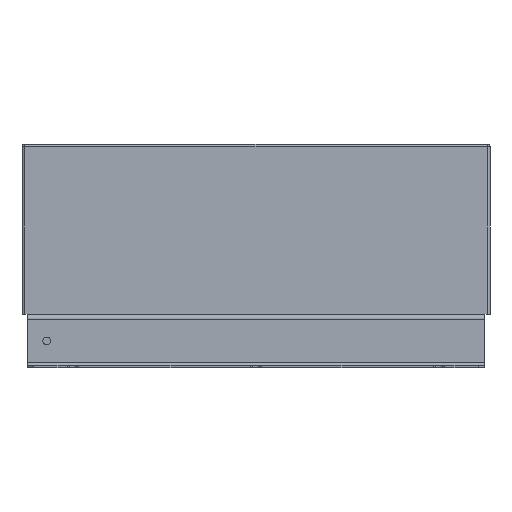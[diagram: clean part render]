
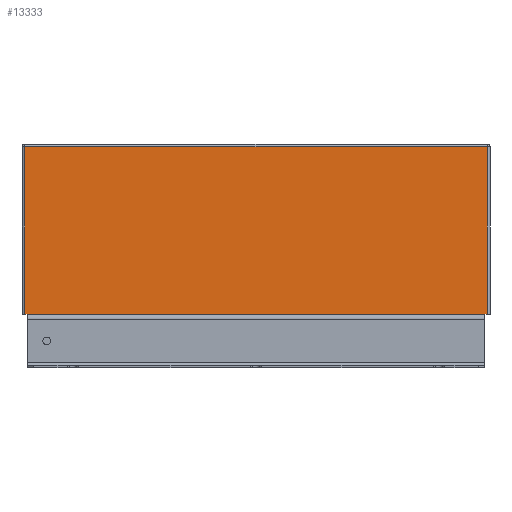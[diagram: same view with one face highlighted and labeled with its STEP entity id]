
A CAD part, front view. The second image highlights one B-rep face of the part: STEP entity #13333.
In plain terms, the highlighted planar face has unit normal (0, -1, 0).
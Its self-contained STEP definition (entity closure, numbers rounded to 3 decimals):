
#950=FACE_OUTER_BOUND('',#1840,.T.);
#1840=EDGE_LOOP('',(#12003,#12004,#12005,#12006,#12007,#12008));
#2816=LINE('',#19089,#4599);
#3473=LINE('',#20426,#5256);
#3476=LINE('',#20440,#5259);
#3480=LINE('',#20446,#5263);
#3487=LINE('',#20459,#5270);
#3620=LINE('',#20760,#5403);
#4599=VECTOR('',#15338,10.);
#5256=VECTOR('',#16763,10.);
#5259=VECTOR('',#16778,10.);
#5263=VECTOR('',#16786,10.);
#5270=VECTOR('',#16801,10.);
#5403=VECTOR('',#17070,10.);
#6217=VERTEX_POINT('',#19086);
#6218=VERTEX_POINT('',#19088);
#6514=VERTEX_POINT('',#20422);
#6515=VERTEX_POINT('',#20429);
#6518=VERTEX_POINT('',#20436);
#6521=VERTEX_POINT('',#20458);
#7586=EDGE_CURVE('',#6218,#6217,#2816,.T.);
#8255=EDGE_CURVE('',#6218,#6514,#3473,.T.);
#8262=EDGE_CURVE('',#6515,#6518,#3476,.T.);
#8266=EDGE_CURVE('',#6514,#6515,#3480,.T.);
#8273=EDGE_CURVE('',#6521,#6518,#3487,.T.);
#8422=EDGE_CURVE('',#6521,#6217,#3620,.T.);
#12003=ORIENTED_EDGE('',*,*,#8255,.F.);
#12004=ORIENTED_EDGE('',*,*,#7586,.T.);
#12005=ORIENTED_EDGE('',*,*,#8422,.F.);
#12006=ORIENTED_EDGE('',*,*,#8273,.T.);
#12007=ORIENTED_EDGE('',*,*,#8262,.F.);
#12008=ORIENTED_EDGE('',*,*,#8266,.F.);
#12713=PLANE('',#14013);
#13333=ADVANCED_FACE('',(#950),#12713,.T.);
#14013=AXIS2_PLACEMENT_3D('',#20759,#17068,#17069);
#15338=DIRECTION('',(1.,0.,0.));
#16763=DIRECTION('',(0.,0.,1.));
#16778=DIRECTION('',(0.,0.,-1.));
#16786=DIRECTION('',(1.,0.,0.));
#16801=DIRECTION('',(1.,0.,0.));
#17068=DIRECTION('center_axis',(0.,-1.,0.));
#17069=DIRECTION('ref_axis',(1.,0.,0.));
#17070=DIRECTION('',(-1.,0.,0.));
#19086=CARTESIAN_POINT('',(-175.,-238.,2.));
#19088=CARTESIAN_POINT('',(-177.,-238.,2.));
#19089=CARTESIAN_POINT('',(-179.,-238.,2.));
#20422=CARTESIAN_POINT('',(-177.,-238.,130.));
#20426=CARTESIAN_POINT('',(-177.,-238.,2.));
#20429=CARTESIAN_POINT('',(177.,-238.,130.));
#20436=CARTESIAN_POINT('',(177.,-238.,2.));
#20440=CARTESIAN_POINT('',(177.,-238.,2.));
#20446=CARTESIAN_POINT('',(-89.5,-238.,130.));
#20458=CARTESIAN_POINT('',(175.,-238.,2.));
#20459=CARTESIAN_POINT('',(-179.,-238.,2.));
#20759=CARTESIAN_POINT('Origin',(-179.,-238.,2.));
#20760=CARTESIAN_POINT('',(0.,-238.,2.));
